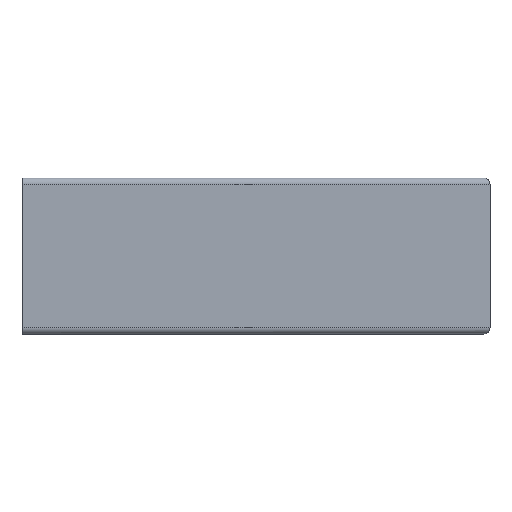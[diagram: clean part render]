
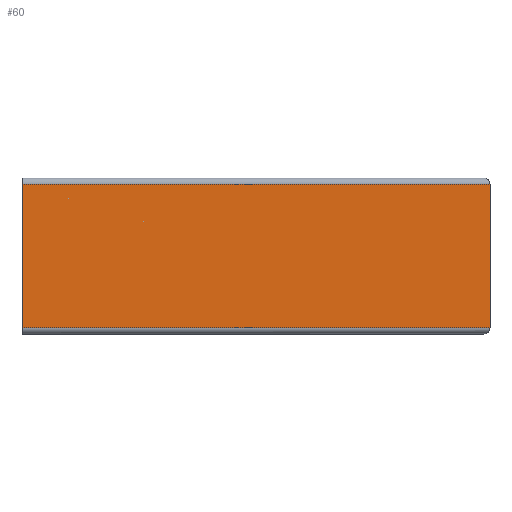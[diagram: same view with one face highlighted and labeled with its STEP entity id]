
A CAD part, left-side view. The second image highlights one B-rep face of the part: STEP entity #60.
In plain terms, the highlighted planar face has unit normal (-1, 0, 0).
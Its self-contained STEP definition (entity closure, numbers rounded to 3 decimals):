
#60=ADVANCED_FACE('',(#178),#180,.T.);
#178=FACE_BOUND('',#179,.T.);
#179=EDGE_LOOP('',(#352,#353,#354,#355));
#180=PLANE('',#181);
#181=AXIS2_PLACEMENT_3D('',#182,#183,#184);
#182=CARTESIAN_POINT('',(-50.,-300.,-46.));
#183=DIRECTION('',(-1.,0.,0.));
#184=DIRECTION('',(0.,0.,1.));
#352=ORIENTED_EDGE('',*,*,#415,.T.);
#353=ORIENTED_EDGE('',*,*,#447,.T.);
#354=ORIENTED_EDGE('',*,*,#435,.F.);
#355=ORIENTED_EDGE('',*,*,#448,.F.);
#415=EDGE_CURVE('',#491,#488,#492,.F.);
#435=EDGE_CURVE('',#525,#527,#528,.T.);
#447=EDGE_CURVE('',#488,#527,#545,.T.);
#448=EDGE_CURVE('',#491,#525,#546,.T.);
#488=VERTEX_POINT('',#626);
#491=VERTEX_POINT('',#632);
#492=LINE('',#633,#634);
#525=VERTEX_POINT('',#714);
#527=VERTEX_POINT('',#719);
#528=LINE('',#720,#721);
#545=LINE('',#765,#766);
#546=LINE('',#768,#769);
#626=CARTESIAN_POINT('',(-50.,-300.,46.));
#632=CARTESIAN_POINT('',(-50.,-300.,-46.));
#633=CARTESIAN_POINT('',(-50.,-300.,46.));
#634=VECTOR('',#635,1.);
#635=DIRECTION('',(0.,0.,-1.));
#714=CARTESIAN_POINT('',(-50.,0.,-46.));
#719=CARTESIAN_POINT('',(-50.,0.,46.));
#720=CARTESIAN_POINT('',(-50.,0.,-46.));
#721=VECTOR('',#722,1.);
#722=DIRECTION('',(0.,0.,1.));
#765=CARTESIAN_POINT('',(-50.,-300.,46.));
#766=VECTOR('',#767,1.);
#767=DIRECTION('',(0.,1.,0.));
#768=CARTESIAN_POINT('',(-50.,-300.,-46.));
#769=VECTOR('',#770,1.);
#770=DIRECTION('',(0.,1.,0.));
